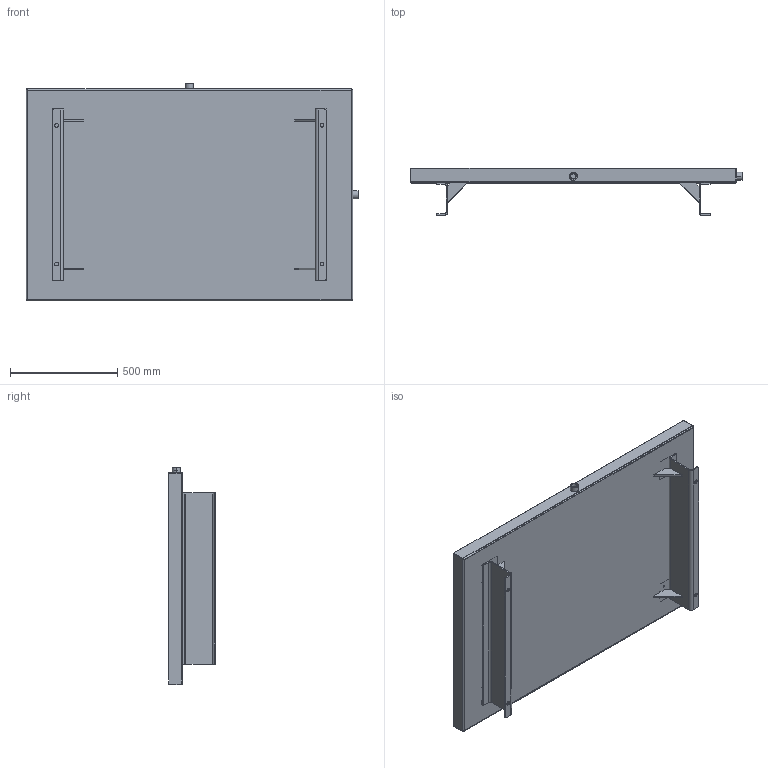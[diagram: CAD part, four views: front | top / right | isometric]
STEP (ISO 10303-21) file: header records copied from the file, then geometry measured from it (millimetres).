
FILE_DESCRIPTION (( 'STEP AP203' ), '1' );
FILE_NAME ('RJDPR060.STEP', '2015-01-07T19:36:35', ( '' ), ( '' ), 'SwSTEP 2.0', 'SolidWorks 2014', '' );
FILE_SCHEMA (( 'CONFIG_CONTROL_DESIGN' ));
Length unit declared in the file: inch
Products named in the file (1): RJDPR060
Bounding box: 1549.4 x 219.07 x 1016 mm (x, y, z)
Surface area: 4467193.6 mm2 (no closed solid volume)
Topology: 0 solids, 14 shells, 168 faces, 415 edges, 262 vertices
Faces by surface type: plane 91, cylinder 64, bspline 7, cone 6
Entity records: 5463 total; most frequent: CARTESIAN_POINT 1423, DIRECTION 849, ORIENTED_EDGE 728, EDGE_CURVE 415, AXIS2_PLACEMENT_3D 288, LINE 273, VECTOR 273, VERTEX_POINT 262
